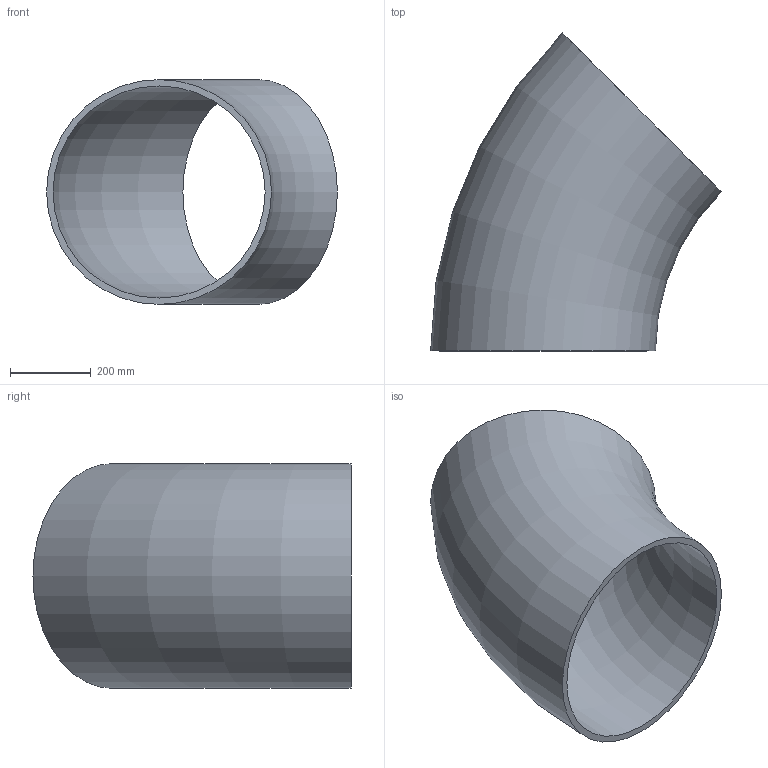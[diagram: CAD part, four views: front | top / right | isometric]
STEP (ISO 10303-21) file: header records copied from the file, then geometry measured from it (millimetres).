
FILE_DESCRIPTION(/* description */ (''),/* implementation_level */ '2;1');
FILE_NAME(/* name */ 'C:\Users\D\Documents\Inventor\HP\JIS\配管\エルボ ロング 45°\Sch40\Elbow45-long-550A-Sch40.stp',/* time_stamp */ '2022-06-08T17:01:24+09:00',/* author */ ('D'),/* organization */ (''),/* preprocessor_version */ 'ST-DEVELOPER v18',/* originating_system */ 'Autodesk Inventor 2020',/* authorisation */ '');
FILE_SCHEMA (('AUTOMOTIVE_DESIGN { 1 0 10303 214 3 1 1 }','INTEGRATED_CNC_SCHEMA'));
Length unit declared in the file: millimetre
Products named in the file (1): Elbow-long-90-15A-SGP
Bounding box: 722.47 x 790.26 x 558.8 mm (x, y, z)
Volume: 17852719.3 mm3; surface area: 2299862.2 mm2
Topology: 1 solids, 1 shells, 4 faces, 10 edges, 8 vertices
Faces by surface type: torus 2, plane 2
Entity records: 181 total; most frequent: DIRECTION 30, CARTESIAN_POINT 23, ORIENTED_EDGE 20, AXIS2_PLACEMENT_3D 15, CIRCLE 10, EDGE_CURVE 10, VERTEX_POINT 8, EDGE_LOOP 6
